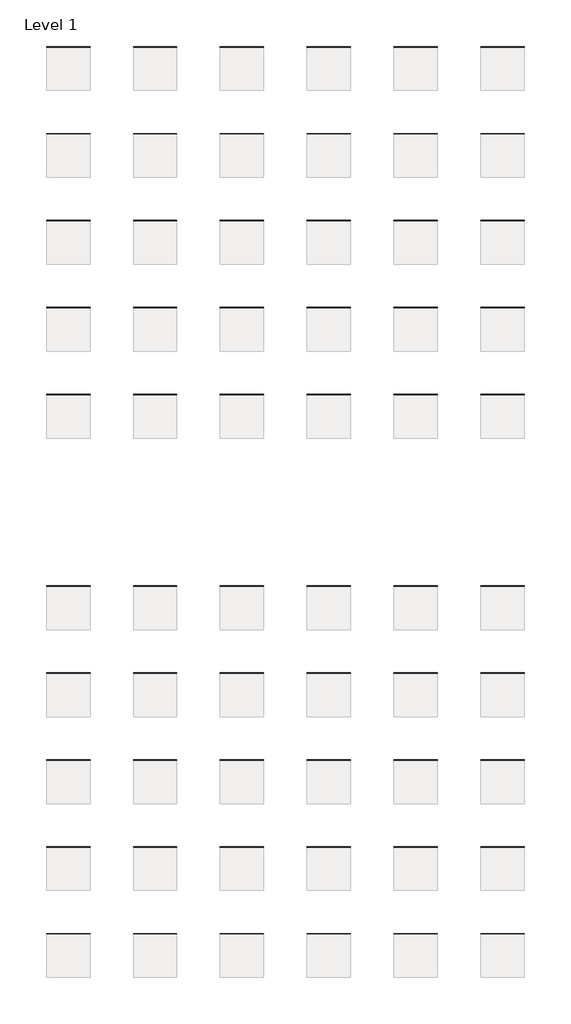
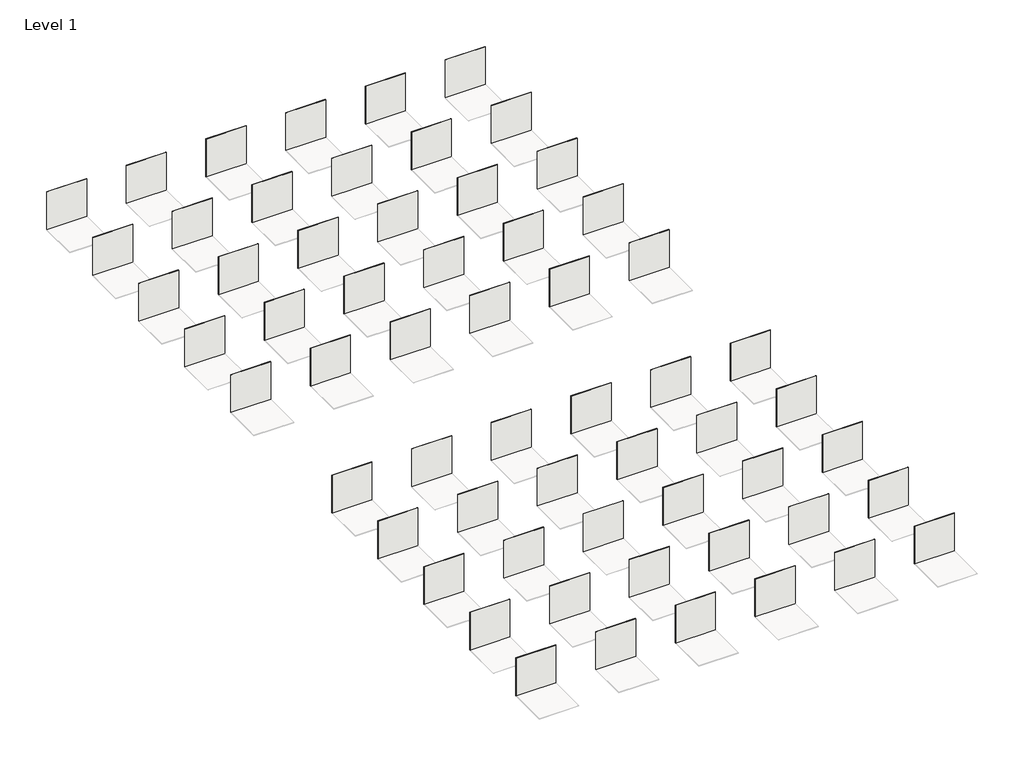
# One storey, part 1 of 2: 60 coverings.
"""IFC4 building model written with IfcOpenShell, lengths in millimetres."""

from ifc_helpers import new_model, si_unit, origin, origin_with_axes, place, context, project, spatial, polyline, outline, extrude, element, save

model = new_model("IFC4")

# Units and contexts
model_context = context("Model", 3, world=origin())
ifc_project = project(units=[si_unit("LENGTHUNIT", "METRE", prefix="MILLI")], contexts=[model_context])

# Site, building, storey
site = spatial("IfcSite", under=ifc_project)
building = spatial("IfcBuilding", under=site)
storey = spatial("IfcBuildingStorey", under=building, Name="Level 1", Elevation=0.0)

# Coverings
placement = place(None, origin())
element("IfcCovering", 1, ObjectType="REVIGRÉS-OMNISTONE-BASE-30X60-MATTRECT-BONE", at=placement, inside=storey, context=model_context, shape_type="SweptSolid", body=[
    extrude(outline(polyline([(1008.2238844, 10811.2034686), (8.2238844, 10811.2034686), (8.2238844, 10821.0034686), (1008.2238844, 10821.0034686), (1008.2238844, 10811.2034686)])), origin_with_axes(), (0.0, 0.0, 1.0), 1000.0),
])
element("IfcCovering", 2, ObjectType="REVIGRÉS-OMNISTONE-BASE-60X60-MATTRECT-BONE", at=placement, inside=storey, context=model_context, shape_type="SweptSolid", body=[
    extrude(outline(polyline([(1008.2238844, 12811.2034686), (8.2238844, 12811.2034686), (8.2238844, 12821.0034686), (1008.2238844, 12821.0034686), (1008.2238844, 12811.2034686)])), origin_with_axes(), (0.0, 0.0, 1.0), 1000.0),
])
element("IfcCovering", 3, ObjectType="REVIGRÉS-OMNISTONE-BASE-60X120-MATTRECT-BONE", at=placement, inside=storey, context=model_context, shape_type="SweptSolid", body=[
    extrude(outline(polyline([(1008.2238844, 14811.2034686), (8.2238844, 14811.2034686), (8.2238844, 14821.0034686), (1008.2238844, 14821.0034686), (1008.2238844, 14811.2034686)])), origin_with_axes(), (0.0, 0.0, 1.0), 1000.0),
])
element("IfcCovering", 4, ObjectType="REVIGRÉS-OMNISTONE-BASE-45X90-MATTRECT-BONE", at=placement, inside=storey, context=model_context, shape_type="SweptSolid", body=[
    extrude(outline(polyline([(1008.2238844, 16811.2034686), (8.2238844, 16811.2034686), (8.2238844, 16821.7034686), (1008.2238844, 16821.7034686), (1008.2238844, 16811.2034686)])), origin_with_axes(), (0.0, 0.0, 1.0), 1000.0),
])
element("IfcCovering", 5, ObjectType="REVIGRÉS-OMNISTONE-BASE-90X90-MATTRECT-BONE", at=placement, inside=storey, context=model_context, shape_type="SweptSolid", body=[
    extrude(outline(polyline([(1008.2238844, 18811.2034686), (8.2238844, 18811.2034686), (8.2238844, 18821.7034686), (1008.2238844, 18821.7034686), (1008.2238844, 18811.2034686)])), origin_with_axes(), (0.0, 0.0, 1.0), 1000.0),
])
element("IfcCovering", 6, ObjectType="REVIGRÉS-OMNISTONE-BASE-30X60-SOFT-BONE", at=placement, inside=storey, context=model_context, shape_type="SweptSolid", body=[
    extrude(outline(polyline([(3008.2238844, 10811.2034686), (2008.2238844, 10811.2034686), (2008.2238844, 10821.0034686), (3008.2238844, 10821.0034686), (3008.2238844, 10811.2034686)])), origin_with_axes(), (0.0, 0.0, 1.0), 1000.0),
])
element("IfcCovering", 7, ObjectType="REVIGRÉS-OMNISTONE-BASE-60X60-SOFT-BONE", at=placement, inside=storey, context=model_context, shape_type="SweptSolid", body=[
    extrude(outline(polyline([(3008.2238844, 12811.2034686), (2008.2238844, 12811.2034686), (2008.2238844, 12821.0034686), (3008.2238844, 12821.0034686), (3008.2238844, 12811.2034686)])), origin_with_axes(), (0.0, 0.0, 1.0), 1000.0),
])
element("IfcCovering", 8, ObjectType="REVIGRÉS-OMNISTONE-BASE-60X120-SOFT-BONE", at=placement, inside=storey, context=model_context, shape_type="SweptSolid", body=[
    extrude(outline(polyline([(3008.2238844, 14811.2034686), (2008.2238844, 14811.2034686), (2008.2238844, 14821.0034686), (3008.2238844, 14821.0034686), (3008.2238844, 14811.2034686)])), origin_with_axes(), (0.0, 0.0, 1.0), 1000.0),
])
element("IfcCovering", 9, ObjectType="REVIGRÉS-OMNISTONE-BASE-45X90-SOFT-BONE", at=placement, inside=storey, context=model_context, shape_type="SweptSolid", body=[
    extrude(outline(polyline([(3008.2238844, 16811.2034686), (2008.2238844, 16811.2034686), (2008.2238844, 16821.7034686), (3008.2238844, 16821.7034686), (3008.2238844, 16811.2034686)])), origin_with_axes(), (0.0, 0.0, 1.0), 1000.0),
])
element("IfcCovering", 10, ObjectType="REVIGRÉS-OMNISTONE-BASE-90X90-SOFT-BONE", at=placement, inside=storey, context=model_context, shape_type="SweptSolid", body=[
    extrude(outline(polyline([(3008.2238844, 18811.2034686), (2008.2238844, 18811.2034686), (2008.2238844, 18821.7034686), (3008.2238844, 18821.7034686), (3008.2238844, 18811.2034686)])), origin_with_axes(), (0.0, 0.0, 1.0), 1000.0),
])
element("IfcCovering", 11, ObjectType="REVIGRÉS-OMNISTONE-BASE-30X60-MATTRECT-ICE", at=placement, inside=storey, context=model_context, shape_type="SweptSolid", body=[
    extrude(outline(polyline([(5008.2238844, 10811.2034686), (4008.2238844, 10811.2034686), (4008.2238844, 10821.0034686), (5008.2238844, 10821.0034686), (5008.2238844, 10811.2034686)])), origin_with_axes(), (0.0, 0.0, 1.0), 1000.0),
])
element("IfcCovering", 12, ObjectType="REVIGRÉS-OMNISTONE-BASE-60X60-MATTRECT-ICE", at=placement, inside=storey, context=model_context, shape_type="SweptSolid", body=[
    extrude(outline(polyline([(5008.2238844, 12811.2034686), (4008.2238844, 12811.2034686), (4008.2238844, 12821.0034686), (5008.2238844, 12821.0034686), (5008.2238844, 12811.2034686)])), origin_with_axes(), (0.0, 0.0, 1.0), 1000.0),
])
element("IfcCovering", 13, ObjectType="REVIGRÉS-OMNISTONE-BASE-60X120-MATTRECT-ICE", at=placement, inside=storey, context=model_context, shape_type="SweptSolid", body=[
    extrude(outline(polyline([(5008.2238844, 14811.2034686), (4008.2238844, 14811.2034686), (4008.2238844, 14821.0034686), (5008.2238844, 14821.0034686), (5008.2238844, 14811.2034686)])), origin_with_axes(), (0.0, 0.0, 1.0), 1000.0),
])
element("IfcCovering", 14, ObjectType="REVIGRÉS-OMNISTONE-BASE-45X90-MATTRECT-ICE", at=placement, inside=storey, context=model_context, shape_type="SweptSolid", body=[
    extrude(outline(polyline([(5008.2238844, 16811.2034686), (4008.2238844, 16811.2034686), (4008.2238844, 16821.7034686), (5008.2238844, 16821.7034686), (5008.2238844, 16811.2034686)])), origin_with_axes(), (0.0, 0.0, 1.0), 1000.0),
])
element("IfcCovering", 15, ObjectType="REVIGRÉS-OMNISTONE-BASE-90X90-MATTRECT-ICE", at=placement, inside=storey, context=model_context, shape_type="SweptSolid", body=[
    extrude(outline(polyline([(5008.2238844, 18811.2034686), (4008.2238844, 18811.2034686), (4008.2238844, 18821.7034686), (5008.2238844, 18821.7034686), (5008.2238844, 18811.2034686)])), origin_with_axes(), (0.0, 0.0, 1.0), 1000.0),
])
element("IfcCovering", 16, ObjectType="REVIGRÉS-OMNISTONE-BASE-30X60-SOFT-ICE", at=placement, inside=storey, context=model_context, shape_type="SweptSolid", body=[
    extrude(outline(polyline([(7008.2238844, 10811.2034686), (6008.2238844, 10811.2034686), (6008.2238844, 10821.0034686), (7008.2238844, 10821.0034686), (7008.2238844, 10811.2034686)])), origin_with_axes(), (0.0, 0.0, 1.0), 1000.0),
])
element("IfcCovering", 17, ObjectType="REVIGRÉS-OMNISTONE-BASE-60X60-SOFT-ICE", at=placement, inside=storey, context=model_context, shape_type="SweptSolid", body=[
    extrude(outline(polyline([(7008.2238844, 12811.2034686), (6008.2238844, 12811.2034686), (6008.2238844, 12821.0034686), (7008.2238844, 12821.0034686), (7008.2238844, 12811.2034686)])), origin_with_axes(), (0.0, 0.0, 1.0), 1000.0),
])
element("IfcCovering", 18, ObjectType="REVIGRÉS-OMNISTONE-BASE-60X120-SOFT-ICE", at=placement, inside=storey, context=model_context, shape_type="SweptSolid", body=[
    extrude(outline(polyline([(7008.2238844, 14811.2034686), (6008.2238844, 14811.2034686), (6008.2238844, 14821.0034686), (7008.2238844, 14821.0034686), (7008.2238844, 14811.2034686)])), origin_with_axes(), (0.0, 0.0, 1.0), 1000.0),
])
element("IfcCovering", 19, ObjectType="REVIGRÉS-OMNISTONE-BASE-45X90-SOFT-ICE", at=placement, inside=storey, context=model_context, shape_type="SweptSolid", body=[
    extrude(outline(polyline([(7008.2238844, 16811.2034686), (6008.2238844, 16811.2034686), (6008.2238844, 16821.7034686), (7008.2238844, 16821.7034686), (7008.2238844, 16811.2034686)])), origin_with_axes(), (0.0, 0.0, 1.0), 1000.0),
])
element("IfcCovering", 20, ObjectType="REVIGRÉS-OMNISTONE-BASE-90X90-SOFT-ICE", at=placement, inside=storey, context=model_context, shape_type="SweptSolid", body=[
    extrude(outline(polyline([(7008.2238844, 18811.2034686), (6008.2238844, 18811.2034686), (6008.2238844, 18821.7034686), (7008.2238844, 18821.7034686), (7008.2238844, 18811.2034686)])), origin_with_axes(), (0.0, 0.0, 1.0), 1000.0),
])
element("IfcCovering", 21, ObjectType="REVIGRÉS-OMNISTONE-BASE-30X60-MATTRECT-IRON", at=placement, inside=storey, context=model_context, shape_type="SweptSolid", body=[
    extrude(outline(polyline([(9008.2238844, 10811.2034686), (8008.2238844, 10811.2034686), (8008.2238844, 10821.0034686), (9008.2238844, 10821.0034686), (9008.2238844, 10811.2034686)])), origin_with_axes(), (0.0, 0.0, 1.0), 1000.0),
])
element("IfcCovering", 22, ObjectType="REVIGRÉS-OMNISTONE-BASE-60X60-MATTRECT-IRON", at=placement, inside=storey, context=model_context, shape_type="SweptSolid", body=[
    extrude(outline(polyline([(9008.2238844, 12811.2034686), (8008.2238844, 12811.2034686), (8008.2238844, 12821.0034686), (9008.2238844, 12821.0034686), (9008.2238844, 12811.2034686)])), origin_with_axes(), (0.0, 0.0, 1.0), 1000.0),
])
element("IfcCovering", 23, ObjectType="REVIGRÉS-OMNISTONE-BASE-60X120-MATTRECT-IRON", at=placement, inside=storey, context=model_context, shape_type="SweptSolid", body=[
    extrude(outline(polyline([(9008.2238844, 14811.2034686), (8008.2238844, 14811.2034686), (8008.2238844, 14821.0034686), (9008.2238844, 14821.0034686), (9008.2238844, 14811.2034686)])), origin_with_axes(), (0.0, 0.0, 1.0), 1000.0),
])
element("IfcCovering", 24, ObjectType="REVIGRÉS-OMNISTONE-BASE-45X90-MATTRECT-IRON", at=placement, inside=storey, context=model_context, shape_type="SweptSolid", body=[
    extrude(outline(polyline([(9008.2238844, 16811.2034686), (8008.2238844, 16811.2034686), (8008.2238844, 16821.7034686), (9008.2238844, 16821.7034686), (9008.2238844, 16811.2034686)])), origin_with_axes(), (0.0, 0.0, 1.0), 1000.0),
])
element("IfcCovering", 25, ObjectType="REVIGRÉS-OMNISTONE-BASE-90X90-MATTRECT-IRON", at=placement, inside=storey, context=model_context, shape_type="SweptSolid", body=[
    extrude(outline(polyline([(9008.2238844, 18811.2034686), (8008.2238844, 18811.2034686), (8008.2238844, 18821.7034686), (9008.2238844, 18821.7034686), (9008.2238844, 18811.2034686)])), origin_with_axes(), (0.0, 0.0, 1.0), 1000.0),
])
element("IfcCovering", 26, ObjectType="REVIGRÉS-OMNISTONE-BASE-30X60-SOFT-IRON", at=placement, inside=storey, context=model_context, shape_type="SweptSolid", body=[
    extrude(outline(polyline([(11008.2238844, 10811.2034686), (10008.2238844, 10811.2034686), (10008.2238844, 10821.0034686), (11008.2238844, 10821.0034686), (11008.2238844, 10811.2034686)])), origin_with_axes(), (0.0, 0.0, 1.0), 1000.0),
])
element("IfcCovering", 27, ObjectType="REVIGRÉS-OMNISTONE-BASE-60X60-SOFT-IRON", at=placement, inside=storey, context=model_context, shape_type="SweptSolid", body=[
    extrude(outline(polyline([(11008.2238844, 12811.2034686), (10008.2238844, 12811.2034686), (10008.2238844, 12821.0034686), (11008.2238844, 12821.0034686), (11008.2238844, 12811.2034686)])), origin_with_axes(), (0.0, 0.0, 1.0), 1000.0),
])
element("IfcCovering", 28, ObjectType="REVIGRÉS-OMNISTONE-BASE-60X120-SOFT-IRON", at=placement, inside=storey, context=model_context, shape_type="SweptSolid", body=[
    extrude(outline(polyline([(11008.2238844, 14811.2034686), (10008.2238844, 14811.2034686), (10008.2238844, 14821.0034686), (11008.2238844, 14821.0034686), (11008.2238844, 14811.2034686)])), origin_with_axes(), (0.0, 0.0, 1.0), 1000.0),
])
element("IfcCovering", 29, ObjectType="REVIGRÉS-OMNISTONE-BASE-45X90-SOFT-IRON", at=placement, inside=storey, context=model_context, shape_type="SweptSolid", body=[
    extrude(outline(polyline([(11008.2238844, 16811.2034686), (10008.2238844, 16811.2034686), (10008.2238844, 16821.7034686), (11008.2238844, 16821.7034686), (11008.2238844, 16811.2034686)])), origin_with_axes(), (0.0, 0.0, 1.0), 1000.0),
])
element("IfcCovering", 30, ObjectType="REVIGRÉS-OMNISTONE-BASE-90X90-SOFT-IRON", at=placement, inside=storey, context=model_context, shape_type="SweptSolid", body=[
    extrude(outline(polyline([(11008.2238844, 18811.2034686), (10008.2238844, 18811.2034686), (10008.2238844, 18821.7034686), (11008.2238844, 18821.7034686), (11008.2238844, 18811.2034686)])), origin_with_axes(), (0.0, 0.0, 1.0), 1000.0),
])
element("IfcCovering", 31, ObjectType="REVIGRÉS-OMNISTONE-BASE-30X60-MATTRECT-JET", at=placement, inside=storey, context=model_context, shape_type="SweptSolid", body=[
    extrude(outline(polyline([(1008.2238844, -1588.7965314), (8.2238844, -1588.7965314), (8.2238844, -1578.9965314), (1008.2238844, -1578.9965314), (1008.2238844, -1588.7965314)])), origin_with_axes(), (0.0, 0.0, 1.0), 1000.0),
])
element("IfcCovering", 32, ObjectType="REVIGRÉS-OMNISTONE-BASE-60X60-MATTRECT-JET", at=placement, inside=storey, context=model_context, shape_type="SweptSolid", body=[
    extrude(outline(polyline([(1008.2238844, 411.2034686), (8.2238844, 411.2034686), (8.2238844, 421.0034686), (1008.2238844, 421.0034686), (1008.2238844, 411.2034686)])), origin_with_axes(), (0.0, 0.0, 1.0), 1000.0),
])
element("IfcCovering", 33, ObjectType="REVIGRÉS-OMNISTONE-BASE-60X120-MATTRECT-JET", at=placement, inside=storey, context=model_context, shape_type="SweptSolid", body=[
    extrude(outline(polyline([(1008.2238844, 2411.2034686), (8.2238844, 2411.2034686), (8.2238844, 2421.0034686), (1008.2238844, 2421.0034686), (1008.2238844, 2411.2034686)])), origin_with_axes(), (0.0, 0.0, 1.0), 1000.0),
])
element("IfcCovering", 34, ObjectType="REVIGRÉS-OMNISTONE-BASE-45X90-MATTRECT-JET", at=placement, inside=storey, context=model_context, shape_type="SweptSolid", body=[
    extrude(outline(polyline([(1008.2238844, 4411.2034686), (8.2238844, 4411.2034686), (8.2238844, 4421.7034686), (1008.2238844, 4421.7034686), (1008.2238844, 4411.2034686)])), origin_with_axes(), (0.0, 0.0, 1.0), 1000.0),
])
element("IfcCovering", 35, ObjectType="REVIGRÉS-OMNISTONE-BASE-90X90-MATTRECT-JET", at=placement, inside=storey, context=model_context, shape_type="SweptSolid", body=[
    extrude(outline(polyline([(1008.2238844, 6411.2034686), (8.2238844, 6411.2034686), (8.2238844, 6421.7034686), (1008.2238844, 6421.7034686), (1008.2238844, 6411.2034686)])), origin_with_axes(), (0.0, 0.0, 1.0), 1000.0),
])
element("IfcCovering", 36, ObjectType="REVIGRÉS-OMNISTONE-BASE-30X60-SOFT-JET", at=placement, inside=storey, context=model_context, shape_type="SweptSolid", body=[
    extrude(outline(polyline([(3008.2238844, -1588.7965314), (2008.2238844, -1588.7965314), (2008.2238844, -1578.9965314), (3008.2238844, -1578.9965314), (3008.2238844, -1588.7965314)])), origin_with_axes(), (0.0, 0.0, 1.0), 1000.0),
])
element("IfcCovering", 37, ObjectType="REVIGRÉS-OMNISTONE-BASE-60X60-SOFT-JET", at=placement, inside=storey, context=model_context, shape_type="SweptSolid", body=[
    extrude(outline(polyline([(3008.2238844, 411.2034686), (2008.2238844, 411.2034686), (2008.2238844, 421.0034686), (3008.2238844, 421.0034686), (3008.2238844, 411.2034686)])), origin_with_axes(), (0.0, 0.0, 1.0), 1000.0),
])
element("IfcCovering", 38, ObjectType="REVIGRÉS-OMNISTONE-BASE-60X120-SOFT-JET", at=placement, inside=storey, context=model_context, shape_type="SweptSolid", body=[
    extrude(outline(polyline([(3008.2238844, 2411.2034686), (2008.2238844, 2411.2034686), (2008.2238844, 2421.0034686), (3008.2238844, 2421.0034686), (3008.2238844, 2411.2034686)])), origin_with_axes(), (0.0, 0.0, 1.0), 1000.0),
])
element("IfcCovering", 39, ObjectType="REVIGRÉS-OMNISTONE-BASE-45X90-SOFT-JET", at=placement, inside=storey, context=model_context, shape_type="SweptSolid", body=[
    extrude(outline(polyline([(3008.2238844, 4411.2034686), (2008.2238844, 4411.2034686), (2008.2238844, 4421.7034686), (3008.2238844, 4421.7034686), (3008.2238844, 4411.2034686)])), origin_with_axes(), (0.0, 0.0, 1.0), 1000.0),
])
element("IfcCovering", 40, ObjectType="REVIGRÉS-OMNISTONE-BASE-90X90-SOFT-JET", at=placement, inside=storey, context=model_context, shape_type="SweptSolid", body=[
    extrude(outline(polyline([(3008.2238844, 6411.2034686), (2008.2238844, 6411.2034686), (2008.2238844, 6421.7034686), (3008.2238844, 6421.7034686), (3008.2238844, 6411.2034686)])), origin_with_axes(), (0.0, 0.0, 1.0), 1000.0),
])
element("IfcCovering", 41, ObjectType="REVIGRÉS-OMNISTONE-BASE-30X60-MATTRECT-PLATINA", at=placement, inside=storey, context=model_context, shape_type="SweptSolid", body=[
    extrude(outline(polyline([(5008.2238844, -1588.7965314), (4008.2238844, -1588.7965314), (4008.2238844, -1578.9965314), (5008.2238844, -1578.9965314), (5008.2238844, -1588.7965314)])), origin_with_axes(), (0.0, 0.0, 1.0), 1000.0),
])
element("IfcCovering", 42, ObjectType="REVIGRÉS-OMNISTONE-BASE-60X60-MATTRECT-PLATINA", at=placement, inside=storey, context=model_context, shape_type="SweptSolid", body=[
    extrude(outline(polyline([(5008.2238844, 411.2034686), (4008.2238844, 411.2034686), (4008.2238844, 421.0034686), (5008.2238844, 421.0034686), (5008.2238844, 411.2034686)])), origin_with_axes(), (0.0, 0.0, 1.0), 1000.0),
])
element("IfcCovering", 43, ObjectType="REVIGRÉS-OMNISTONE-BASE-60X120-MATTRECT-PLATINA", at=placement, inside=storey, context=model_context, shape_type="SweptSolid", body=[
    extrude(outline(polyline([(5008.2238844, 2411.2034686), (4008.2238844, 2411.2034686), (4008.2238844, 2421.0034686), (5008.2238844, 2421.0034686), (5008.2238844, 2411.2034686)])), origin_with_axes(), (0.0, 0.0, 1.0), 1000.0),
])
element("IfcCovering", 44, ObjectType="REVIGRÉS-OMNISTONE-BASE-45X90-MATTRECT-PLATINA", at=placement, inside=storey, context=model_context, shape_type="SweptSolid", body=[
    extrude(outline(polyline([(5008.2238844, 4411.2034686), (4008.2238844, 4411.2034686), (4008.2238844, 4421.7034686), (5008.2238844, 4421.7034686), (5008.2238844, 4411.2034686)])), origin_with_axes(), (0.0, 0.0, 1.0), 1000.0),
])
element("IfcCovering", 45, ObjectType="REVIGRÉS-OMNISTONE-BASE-90X90-MATTRECT-PLATINA", at=placement, inside=storey, context=model_context, shape_type="SweptSolid", body=[
    extrude(outline(polyline([(5008.2238844, 6411.2034686), (4008.2238844, 6411.2034686), (4008.2238844, 6421.7034686), (5008.2238844, 6421.7034686), (5008.2238844, 6411.2034686)])), origin_with_axes(), (0.0, 0.0, 1.0), 1000.0),
])
element("IfcCovering", 46, ObjectType="REVIGRÉS-OMNISTONE-BASE-30X60-SOFT-PLATINA", at=placement, inside=storey, context=model_context, shape_type="SweptSolid", body=[
    extrude(outline(polyline([(7008.2238844, -1588.7965314), (6008.2238844, -1588.7965314), (6008.2238844, -1578.9965314), (7008.2238844, -1578.9965314), (7008.2238844, -1588.7965314)])), origin_with_axes(), (0.0, 0.0, 1.0), 1000.0),
])
element("IfcCovering", 47, ObjectType="REVIGRÉS-OMNISTONE-BASE-60X60-SOFT-PLATINA", at=placement, inside=storey, context=model_context, shape_type="SweptSolid", body=[
    extrude(outline(polyline([(7008.2238844, 411.2034686), (6008.2238844, 411.2034686), (6008.2238844, 421.0034686), (7008.2238844, 421.0034686), (7008.2238844, 411.2034686)])), origin_with_axes(), (0.0, 0.0, 1.0), 1000.0),
])
element("IfcCovering", 48, ObjectType="REVIGRÉS-OMNISTONE-BASE-60X120-SOFT-PLATINA", at=placement, inside=storey, context=model_context, shape_type="SweptSolid", body=[
    extrude(outline(polyline([(7008.2238844, 2411.2034686), (6008.2238844, 2411.2034686), (6008.2238844, 2421.0034686), (7008.2238844, 2421.0034686), (7008.2238844, 2411.2034686)])), origin_with_axes(), (0.0, 0.0, 1.0), 1000.0),
])
element("IfcCovering", 49, ObjectType="REVIGRÉS-OMNISTONE-BASE-45X90-SOFT-PLATINA", at=placement, inside=storey, context=model_context, shape_type="SweptSolid", body=[
    extrude(outline(polyline([(7008.2238844, 4411.2034686), (6008.2238844, 4411.2034686), (6008.2238844, 4421.7034686), (7008.2238844, 4421.7034686), (7008.2238844, 4411.2034686)])), origin_with_axes(), (0.0, 0.0, 1.0), 1000.0),
])
element("IfcCovering", 50, ObjectType="REVIGRÉS-OMNISTONE-BASE-90X90-SOFT-PLATINA", at=placement, inside=storey, context=model_context, shape_type="SweptSolid", body=[
    extrude(outline(polyline([(7008.2238844, 6411.2034686), (6008.2238844, 6411.2034686), (6008.2238844, 6421.7034686), (7008.2238844, 6421.7034686), (7008.2238844, 6411.2034686)])), origin_with_axes(), (0.0, 0.0, 1.0), 1000.0),
])
element("IfcCovering", 51, ObjectType="REVIGRÉS-OMNISTONE-BASE-30X60-MATTRECT-ROPE", at=placement, inside=storey, context=model_context, shape_type="SweptSolid", body=[
    extrude(outline(polyline([(9008.2238844, -1588.7965314), (8008.2238844, -1588.7965314), (8008.2238844, -1578.9965314), (9008.2238844, -1578.9965314), (9008.2238844, -1588.7965314)])), origin_with_axes(), (0.0, 0.0, 1.0), 1000.0),
])
element("IfcCovering", 52, ObjectType="REVIGRÉS-OMNISTONE-BASE-60X60-MATTRECT-ROPE", at=placement, inside=storey, context=model_context, shape_type="SweptSolid", body=[
    extrude(outline(polyline([(9008.2238844, 411.2034686), (8008.2238844, 411.2034686), (8008.2238844, 421.0034686), (9008.2238844, 421.0034686), (9008.2238844, 411.2034686)])), origin_with_axes(), (0.0, 0.0, 1.0), 1000.0),
])
element("IfcCovering", 53, ObjectType="REVIGRÉS-OMNISTONE-BASE-60X120-MATTRECT-ROPE", at=placement, inside=storey, context=model_context, shape_type="SweptSolid", body=[
    extrude(outline(polyline([(9008.2238844, 2411.2034686), (8008.2238844, 2411.2034686), (8008.2238844, 2421.0034686), (9008.2238844, 2421.0034686), (9008.2238844, 2411.2034686)])), origin_with_axes(), (0.0, 0.0, 1.0), 1000.0),
])
element("IfcCovering", 54, ObjectType="REVIGRÉS-OMNISTONE-BASE-45X90-MATTRECT-ROPE", at=placement, inside=storey, context=model_context, shape_type="SweptSolid", body=[
    extrude(outline(polyline([(9008.2238844, 4411.2034686), (8008.2238844, 4411.2034686), (8008.2238844, 4421.7034686), (9008.2238844, 4421.7034686), (9008.2238844, 4411.2034686)])), origin_with_axes(), (0.0, 0.0, 1.0), 1000.0),
])
element("IfcCovering", 55, ObjectType="REVIGRÉS-OMNISTONE-BASE-90X90-MATTRECT-ROPE", at=placement, inside=storey, context=model_context, shape_type="SweptSolid", body=[
    extrude(outline(polyline([(9008.2238844, 6411.2034686), (8008.2238844, 6411.2034686), (8008.2238844, 6421.7034686), (9008.2238844, 6421.7034686), (9008.2238844, 6411.2034686)])), origin_with_axes(), (0.0, 0.0, 1.0), 1000.0),
])
element("IfcCovering", 56, ObjectType="REVIGRÉS-OMNISTONE-BASE-30X60-SOFT-ROPE", at=placement, inside=storey, context=model_context, shape_type="SweptSolid", body=[
    extrude(outline(polyline([(11008.2238844, -1588.7965314), (10008.2238844, -1588.7965314), (10008.2238844, -1578.9965314), (11008.2238844, -1578.9965314), (11008.2238844, -1588.7965314)])), origin_with_axes(), (0.0, 0.0, 1.0), 1000.0),
])
element("IfcCovering", 57, ObjectType="REVIGRÉS-OMNISTONE-BASE-60X60-SOFT-ROPE", at=placement, inside=storey, context=model_context, shape_type="SweptSolid", body=[
    extrude(outline(polyline([(11008.2238844, 411.2034686), (10008.2238844, 411.2034686), (10008.2238844, 421.0034686), (11008.2238844, 421.0034686), (11008.2238844, 411.2034686)])), origin_with_axes(), (0.0, 0.0, 1.0), 1000.0),
])
element("IfcCovering", 58, ObjectType="REVIGRÉS-OMNISTONE-BASE-60X120-SOFT-ROPE", at=placement, inside=storey, context=model_context, shape_type="SweptSolid", body=[
    extrude(outline(polyline([(11008.2238844, 2411.2034686), (10008.2238844, 2411.2034686), (10008.2238844, 2421.0034686), (11008.2238844, 2421.0034686), (11008.2238844, 2411.2034686)])), origin_with_axes(), (0.0, 0.0, 1.0), 1000.0),
])
element("IfcCovering", 59, ObjectType="REVIGRÉS-OMNISTONE-BASE-45X90-SOFT-ROPE", at=placement, inside=storey, context=model_context, shape_type="SweptSolid", body=[
    extrude(outline(polyline([(11008.2238844, 4411.2034686), (10008.2238844, 4411.2034686), (10008.2238844, 4421.7034686), (11008.2238844, 4421.7034686), (11008.2238844, 4411.2034686)])), origin_with_axes(), (0.0, 0.0, 1.0), 1000.0),
])
element("IfcCovering", 60, ObjectType="REVIGRÉS-OMNISTONE-BASE-90X90-SOFT-ROPE", at=placement, inside=storey, context=model_context, shape_type="SweptSolid", body=[
    extrude(outline(polyline([(11008.2238844, 6411.2034686), (10008.2238844, 6411.2034686), (10008.2238844, 6421.7034686), (11008.2238844, 6421.7034686), (11008.2238844, 6411.2034686)])), origin_with_axes(), (0.0, 0.0, 1.0), 1000.0),
])

save(model, "model.ifc")
